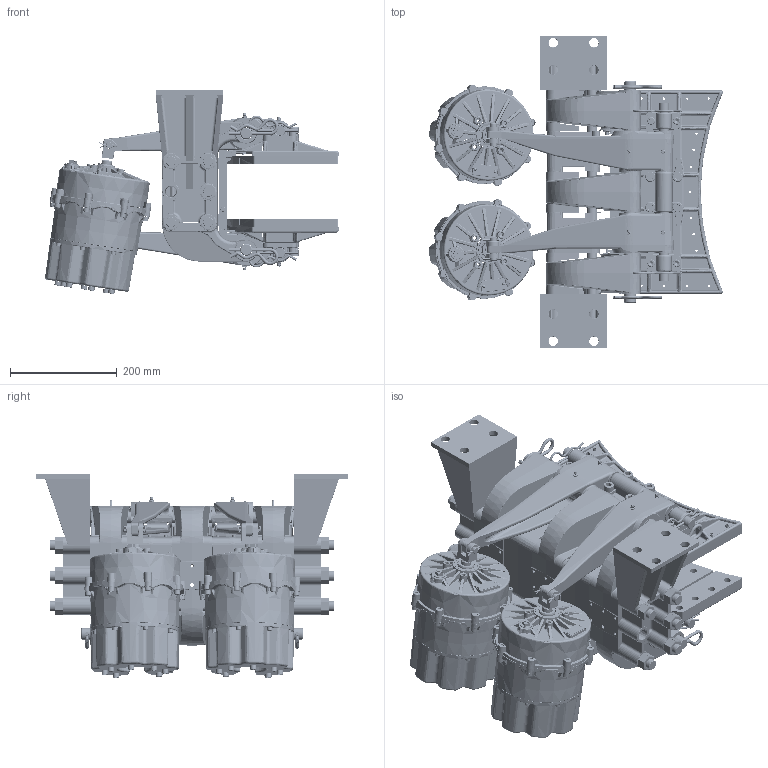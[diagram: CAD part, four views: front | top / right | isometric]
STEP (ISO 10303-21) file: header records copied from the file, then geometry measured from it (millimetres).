
FILE_DESCRIPTION (( 'STEP AP214' ), '1' );
FILE_NAME ('5026-SAW-LH.STEP', '2024-03-28T17:14:58', ( '' ), ( '' ), 'SwSTEP 2.0', 'SolidWorks 2023', '' );
FILE_SCHEMA (( 'AUTOMOTIVE_DESIGN' ));
Products named in the file (1): 5026-SAW-LH
Bounding box: 550.26 x 584.2 x 382.43 mm (x, y, z)
Surface area: 2246062.8 mm2 (no closed solid volume)
Topology: 0 solids, 330 shells, 6132 faces, 20354 edges, 13813 vertices
Faces by surface type: plane 1718, cylinder 1670, bspline 1190, cone 892, torus 604, sphere 58
Entity records: 287525 total; most frequent: CARTESIAN_POINT 129426, ORIENTED_EDGE 31635, DIRECTION 30685, EDGE_CURVE 20213, VERTEX_POINT 13813, AXIS2_PLACEMENT_3D 12358, CIRCLE 7415, EDGE_LOOP 6854
